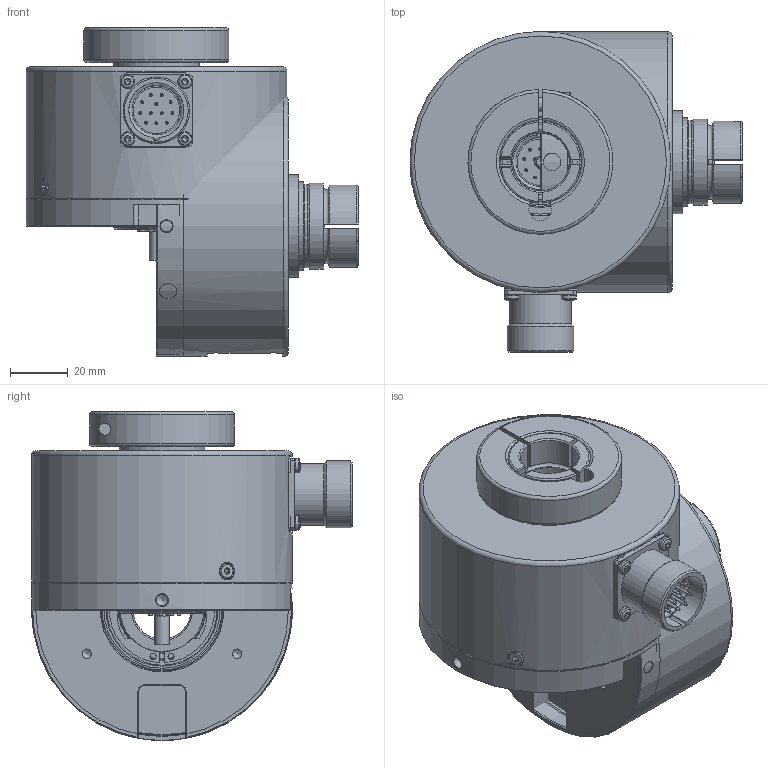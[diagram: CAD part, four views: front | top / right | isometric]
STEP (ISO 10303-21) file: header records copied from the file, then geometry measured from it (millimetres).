
FILE_DESCRIPTION( ( 'Unknown' ), '1' );
FILE_NAME( '//Ivde.local/vs/unterlage/prod_zchng/3D_Zeichnung/Produkte/G1M2H-n_ross/Sonderausführungen/Neuer Ordner/G1M2H_112A102.stp', 'Unknown', ( 'Unknown' ), ( 'Unknown' ), 'XStep 1.0', 'Unknown', ' ' );
FILE_SCHEMA( ( 'CONFIG_CONTROL_DESIGN' ) );
Length unit declared in the file: millimetre
Products named in the file (14): Assem1; Assem2; 1; 2; 3; 4; 5; 6; 7; 8; 9; 10; 11; 12
Bounding box: 114.6 x 110.7 x 113.6 mm (x, y, z)
Volume: 518468.9 mm3; surface area: 242980.6 mm2
Topology: 38 solids, 45 shells, 1762 faces, 4254 edges, 2721 vertices
Faces by surface type: plane 741, cylinder 572, cone 288, torus 143, sphere 18
Full cylindrical faces by diameter (mm): 1 x24, 1.4 x24, 2 x24, 2.013 x17, 2.1 x6, 2.459 x15, 2.5 x17, 2.6 x9, 2.7 x8, 3.242 x9, 4 x8, 4.134 x2, 5 x7, 5.3 x6, 6 x6, 8.5 x2, 9 x2, 15 x2, 16 x2, 16.9 x2, 17 x4, 20 x6, 20.15 x3, 21 x4, 21.3 x2, 23 x2, 28.2 x3, 28.6 x3, 29.6 x3, 29.8 x3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
Entity records: 19242 total; most frequent: CARTESIAN_POINT 4884, DIRECTION 2895, ORIENTED_EDGE 2402, EDGE_CURVE 1201, AXIS2_PLACEMENT_3D 1175, EDGE_LOOP 1005, VERTEX_POINT 925, FACE_OUTER_BOUND 815
